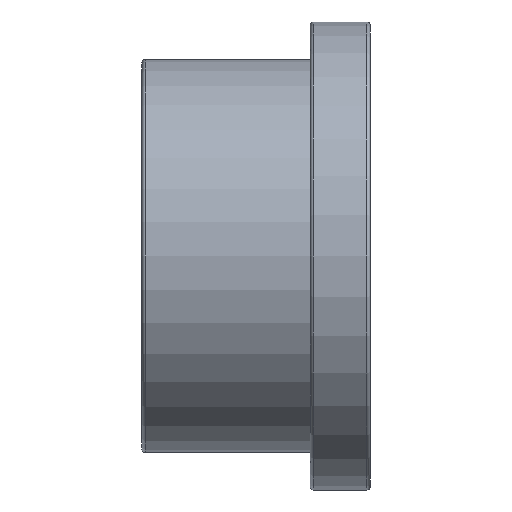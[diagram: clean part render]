
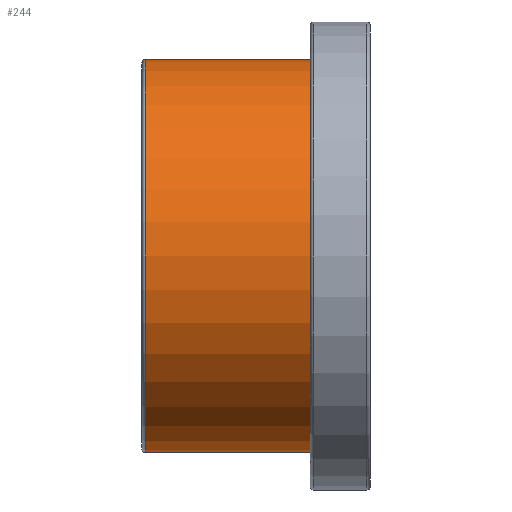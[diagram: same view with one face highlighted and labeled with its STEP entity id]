
A CAD part, front view. The second image highlights one B-rep face of the part: STEP entity #244.
In plain terms, the highlighted cylindrical face has radius 52.5 mm (diameter 105 mm), a full revolution.
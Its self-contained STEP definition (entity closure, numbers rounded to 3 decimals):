
#20=CYLINDRICAL_SURFACE('',#288,52.5);
#46=FACE_BOUND('',#108,.T.);
#67=FACE_OUTER_BOUND('',#107,.T.);
#107=EDGE_LOOP('',(#212));
#108=EDGE_LOOP('',(#213));
#130=CIRCLE('',#285,52.5);
#131=CIRCLE('',#287,52.5);
#151=VERTEX_POINT('',#433);
#152=VERTEX_POINT('',#436);
#172=EDGE_CURVE('',#151,#151,#130,.T.);
#173=EDGE_CURVE('',#152,#152,#131,.T.);
#212=ORIENTED_EDGE('',*,*,#172,.T.);
#213=ORIENTED_EDGE('',*,*,#173,.F.);
#244=ADVANCED_FACE('',(#67,#46),#20,.T.);
#285=AXIS2_PLACEMENT_3D('',#434,#366,#367);
#287=AXIS2_PLACEMENT_3D('',#437,#370,#371);
#288=AXIS2_PLACEMENT_3D('',#438,#372,#373);
#366=DIRECTION('center_axis',(-1.,0.,0.));
#367=DIRECTION('ref_axis',(0.,0.,1.));
#370=DIRECTION('center_axis',(-1.,0.,0.));
#371=DIRECTION('ref_axis',(0.,1.,0.));
#372=DIRECTION('center_axis',(-1.,0.,0.));
#373=DIRECTION('ref_axis',(0.,-1.,0.));
#433=CARTESIAN_POINT('',(45.,-52.5,0.));
#434=CARTESIAN_POINT('Origin',(45.,0.,0.));
#436=CARTESIAN_POINT('',(0.9,-52.5,0.));
#437=CARTESIAN_POINT('Origin',(0.9,0.,0.));
#438=CARTESIAN_POINT('Origin',(22.5,0.,0.));
